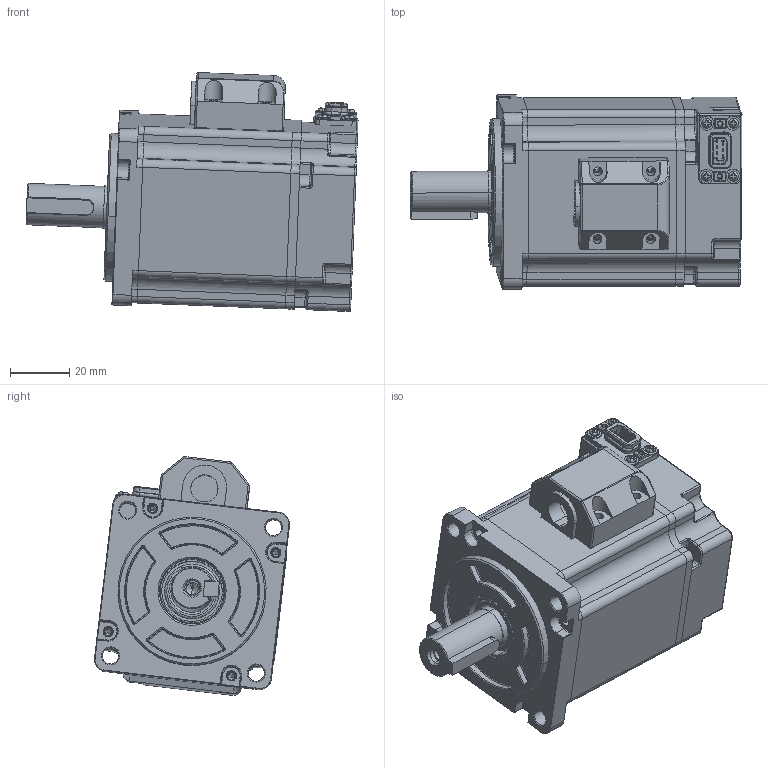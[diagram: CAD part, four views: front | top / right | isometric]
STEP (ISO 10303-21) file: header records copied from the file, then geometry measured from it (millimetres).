
FILE_DESCRIPTION (( 'STEP AP214' ), '1' );
FILE_NAME ('200整机(无刹车)插座式.STEP', '2023-07-03T01:59:55', ( '' ), ( '' ), 'SwSTEP 2.0', 'SolidWorks 2014', '' );
FILE_SCHEMA (( 'AUTOMOTIVE_DESIGN' ));
Length unit declared in the file: millimetre
Products named in the file (17): 60棠詩; 15-32-9粣創; 綴傷裔_60價釱-201126; 60晤鎢ん綴欶; 普通型 平键   C 5x5x22.5 带M3起键螺钉孔; 揤盄裔躇猾菜 - 9.2; SC40陔晤鎢ん瑤脣釱sc-mc7p-a6-zhichuxianchazuo; ヶ傷裔_60價釱-201126; 粣ㄗ拸价陬ㄘ; 60陔晤鎢ん綴欶-201126; 400w蛌赽沺郋; 蚐猾 D00B999YF2-TC 15-22-5; 200W儂褲-腴揤; 60#晤鎢ん欶躇猾菜; 10-26-8粣創; 200整机(无刹车)插座式; 低压电机动力压线盖
Assembly tree (25 placements, depth 3):
  200整机(无刹车)插座式
    10-26-8粣創
    15-32-9粣創
    400w蛌赽沺郋
    60棠詩  x10
    200W儂褲-腴揤
    ヶ傷裔_60價釱-201126
    揤盄裔躇猾菜 - 9.2
    低压电机动力压线盖
    60#晤鎢ん欶躇猾菜
    蚐猾 D00B999YF2-TC 15-22-5
    粣ㄗ拸价陬ㄘ
    綴傷裔_60價釱-201126
    60晤鎢ん綴欶
      60陔晤鎢ん綴欶-201126
      SC40陔晤鎢ん瑤脣釱sc-mc7p-a6-zhichuxianchazuo
    普通型 平键   C 5x5x22.5 带M3起键螺钉孔
Bounding box: 111.95 x 65.73 x 80.55 mm (x, y, z)
Volume: 126911.1 mm3; surface area: 94341.2 mm2
Topology: 32 solids, 34 shells, 2996 faces, 7931 edges, 4878 vertices
Faces by surface type: plane 1137, cylinder 1123, bspline 342, cone 160, torus 152, sphere 82
Entity records: 139543 total; most frequent: CARTESIAN_POINT 40734, ORIENTED_EDGE 14952, DIRECTION 13929, EDGE_CURVE 7479, AXIS2_PLACEMENT_3D 4999, VERTEX_POINT 4647, LINE 3931, VECTOR 3931
